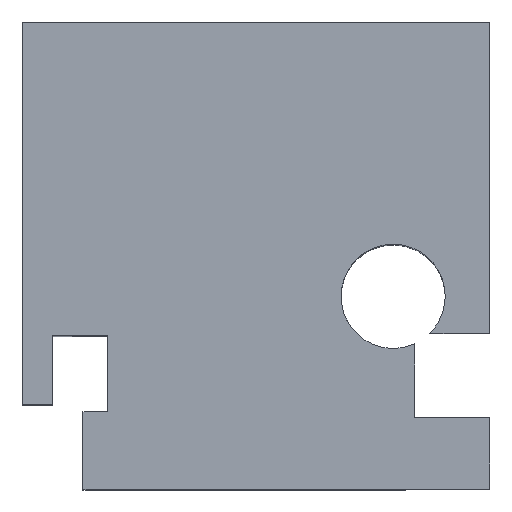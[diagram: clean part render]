
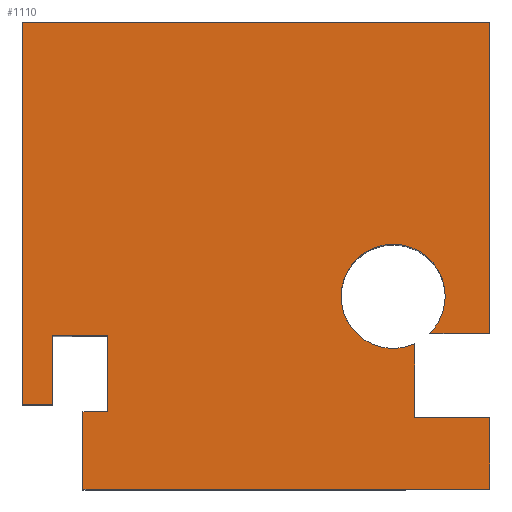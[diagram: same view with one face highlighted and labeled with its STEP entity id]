
A CAD part, top view. The second image highlights one B-rep face of the part: STEP entity #1110.
In plain terms, the highlighted planar face has unit normal (0, 0, 1).
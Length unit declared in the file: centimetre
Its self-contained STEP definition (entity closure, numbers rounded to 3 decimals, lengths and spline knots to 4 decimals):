
#12 = EDGE_CURVE ( 'NONE', #1360, #115, #1386, .T. ) ;
#17 = CARTESIAN_POINT ( 'NONE',  ( 129.6906, 0., 1000. ) ) ;
#54 = CARTESIAN_POINT ( 'NONE',  ( 839.408, 153.0566, 1000. ) ) ;
#73 = VERTEX_POINT ( 'NONE', #54 ) ;
#74 = CARTESIAN_POINT ( 'NONE',  ( 839.408, 333.8363, 1000. ) ) ;
#103 = EDGE_CURVE ( 'NONE', #132, #1500, #870, .T. ) ;
#109 = CARTESIAN_POINT ( 'NONE',  ( 872.0695, 333.8363, 1000. ) ) ;
#114 = EDGE_CURVE ( 'NONE', #737, #1500, #201, .T. ) ;
#115 = VERTEX_POINT ( 'NONE', #315 ) ;
#132 = VERTEX_POINT ( 'NONE', #319 ) ;
#149 = CARTESIAN_POINT ( 'NONE',  ( 0., 0., 1000. ) ) ;
#191 = CIRCLE ( 'NONE', #1572, 111.417 ) ;
#201 = LINE ( 'NONE', #1414, #682 ) ;
#215 = VECTOR ( 'NONE', #783, 100. ) ;
#216 = VECTOR ( 'NONE', #683, 100. ) ;
#219 = LINE ( 'NONE', #74, #302 ) ;
#252 = DIRECTION ( 'NONE',  ( 1., 0., 0. ) ) ;
#259 = CARTESIAN_POINT ( 'NONE',  ( 793.5416, 412.875, 1000. ) ) ;
#265 = VERTEX_POINT ( 'NONE', #109 ) ;
#278 = CARTESIAN_POINT ( 'NONE',  ( 0., 1000., 1000. ) ) ;
#281 = CARTESIAN_POINT ( 'NONE',  ( 182.3076, 328.4887, 1000. ) ) ;
#295 = EDGE_CURVE ( 'NONE', #477, #1003, #342, .T. ) ;
#302 = VECTOR ( 'NONE', #541, 100. ) ;
#303 = DIRECTION ( 'NONE',  ( 0., 1., 0. ) ) ;
#309 = LINE ( 'NONE', #1378, #1198 ) ;
#315 = CARTESIAN_POINT ( 'NONE',  ( 1000., 153.0566, 1000. ) ) ;
#318 = LINE ( 'NONE', #518, #215 ) ;
#319 = CARTESIAN_POINT ( 'NONE',  ( 0., 1000., 1000. ) ) ;
#321 = CARTESIAN_POINT ( 'NONE',  ( 64.2574, 166.1944, 1000. ) ) ;
#324 = CARTESIAN_POINT ( 'NONE',  ( 1000., 333.8363, 1000. ) ) ;
#334 = ORIENTED_EDGE ( 'NONE', *, *, #1120, .T. ) ;
#342 = CIRCLE ( 'NONE', #845, 111.417 ) ;
#353 = ORIENTED_EDGE ( 'NONE', *, *, #295, .T. ) ;
#354 = ORIENTED_EDGE ( 'NONE', *, *, #422, .F. ) ;
#355 = ORIENTED_EDGE ( 'NONE', *, *, #878, .F. ) ;
#370 = ORIENTED_EDGE ( 'NONE', *, *, #832, .T. ) ;
#382 = DIRECTION ( 'NONE',  ( 1., 0., 0. ) ) ;
#389 = CARTESIAN_POINT ( 'NONE',  ( 0., 0., 1000. ) ) ;
#411 = DIRECTION ( 'NONE',  ( -1., 0., 0. ) ) ;
#420 = EDGE_CURVE ( 'NONE', #1049, #1360, #1000, .T. ) ;
#422 = EDGE_CURVE ( 'NONE', #477, #73, #1479, .T. ) ;
#441 = ORIENTED_EDGE ( 'NONE', *, *, #103, .T. ) ;
#447 = CARTESIAN_POINT ( 'NONE',  ( 0., 181.0996, 1000. ) ) ;
#458 = ORIENTED_EDGE ( 'NONE', *, *, #617, .F. ) ;
#468 = DIRECTION ( 'NONE',  ( 0., 0., -1. ) ) ;
#473 = ORIENTED_EDGE ( 'NONE', *, *, #1483, .T. ) ;
#475 = CARTESIAN_POINT ( 'NONE',  ( 64.2574, 181.0996, 1000. ) ) ;
#477 = VERTEX_POINT ( 'NONE', #757 ) ;
#499 = FACE_OUTER_BOUND ( 'NONE', #1232, .T. ) ;
#510 = DIRECTION ( 'NONE',  ( 0., -1., 0. ) ) ;
#518 = CARTESIAN_POINT ( 'NONE',  ( 129.6906, 0., 1000. ) ) ;
#525 = CARTESIAN_POINT ( 'NONE',  ( 682.1246, 412.875, 1000. ) ) ;
#541 = DIRECTION ( 'NONE',  ( -1., 0., 0. ) ) ;
#546 = VERTEX_POINT ( 'NONE', #1056 ) ;
#555 = VECTOR ( 'NONE', #1305, 100. ) ;
#556 = ORIENTED_EDGE ( 'NONE', *, *, #854, .T. ) ;
#585 = DIRECTION ( 'NONE',  ( -1., 0., 0. ) ) ;
#612 = CARTESIAN_POINT ( 'NONE',  ( 793.5416, 412.875, 1000. ) ) ;
#617 = EDGE_CURVE ( 'NONE', #1223, #265, #219, .T. ) ;
#619 = DIRECTION ( 'NONE',  ( -1., 0., 0. ) ) ;
#620 = DIRECTION ( 'NONE',  ( 0., -1., 0. ) ) ;
#628 = DIRECTION ( 'NONE',  ( -1., 0., 0. ) ) ;
#633 = CARTESIAN_POINT ( 'NONE',  ( 1000., 0., 1000. ) ) ;
#642 = VECTOR ( 'NONE', #651, 100. ) ;
#643 = CARTESIAN_POINT ( 'NONE',  ( 1000., 1000., 1000. ) ) ;
#651 = DIRECTION ( 'NONE',  ( 1., 0., 0. ) ) ;
#662 = CARTESIAN_POINT ( 'NONE',  ( 182.3076, 166.1944, 1000. ) ) ;
#682 = VECTOR ( 'NONE', #1535, 100. ) ;
#683 = DIRECTION ( 'NONE',  ( -1., 0., 0. ) ) ;
#701 = VERTEX_POINT ( 'NONE', #933 ) ;
#712 = VECTOR ( 'NONE', #303, 100. ) ;
#719 = VERTEX_POINT ( 'NONE', #1418 ) ;
#737 = VERTEX_POINT ( 'NONE', #475 ) ;
#745 = VECTOR ( 'NONE', #1275, 100. ) ;
#757 = CARTESIAN_POINT ( 'NONE',  ( 839.408, 311.3367, 1000. ) ) ;
#772 = LINE ( 'NONE', #890, #712 ) ;
#781 = ORIENTED_EDGE ( 'NONE', *, *, #114, .F. ) ;
#783 = DIRECTION ( 'NONE',  ( 0., 1., 0. ) ) ;
#794 = AXIS2_PLACEMENT_3D ( 'NONE', #389, #1482, #252 ) ;
#818 = ORIENTED_EDGE ( 'NONE', *, *, #1362, .F. ) ;
#832 = EDGE_CURVE ( 'NONE', #719, #265, #1297, .T. ) ;
#838 = LINE ( 'NONE', #1456, #1407 ) ;
#841 = VERTEX_POINT ( 'NONE', #281 ) ;
#845 = AXIS2_PLACEMENT_3D ( 'NONE', #1212, #1316, #585 ) ;
#854 = EDGE_CURVE ( 'NONE', #546, #132, #309, .T. ) ;
#867 = CARTESIAN_POINT ( 'NONE',  ( 839.408, 153.0566, 1000. ) ) ;
#870 = LINE ( 'NONE', #278, #1165 ) ;
#872 = VECTOR ( 'NONE', #1368, 100. ) ;
#878 = EDGE_CURVE ( 'NONE', #1049, #1164, #318, .T. ) ;
#890 = CARTESIAN_POINT ( 'NONE',  ( 1000., 1000., 1000. ) ) ;
#918 = EDGE_CURVE ( 'NONE', #841, #1506, #1267, .T. ) ;
#920 = CARTESIAN_POINT ( 'NONE',  ( 182.3076, 166.1944, 1000. ) ) ;
#922 = ORIENTED_EDGE ( 'NONE', *, *, #918, .T. ) ;
#933 = CARTESIAN_POINT ( 'NONE',  ( 64.2574, 328.4887, 1000. ) ) ;
#969 = ORIENTED_EDGE ( 'NONE', *, *, #420, .T. ) ;
#1000 = LINE ( 'NONE', #149, #1296 ) ;
#1003 = VERTEX_POINT ( 'NONE', #525 ) ;
#1014 = EDGE_CURVE ( 'NONE', #737, #701, #1176, .T. ) ;
#1049 = VERTEX_POINT ( 'NONE', #17 ) ;
#1056 = CARTESIAN_POINT ( 'NONE',  ( 1000., 1000., 1000. ) ) ;
#1057 = CARTESIAN_POINT ( 'NONE',  ( 64.2574, 166.1944, 1000. ) ) ;
#1059 = ORIENTED_EDGE ( 'NONE', *, *, #1341, .T. ) ;
#1091 = EDGE_CURVE ( 'NONE', #1003, #719, #191, .T. ) ;
#1110 = ADVANCED_FACE ( 'NONE', ( #499 ), #1578, .T. ) ;
#1118 = CARTESIAN_POINT ( 'NONE',  ( 129.6906, 166.1944, 1000. ) ) ;
#1120 = EDGE_CURVE ( 'NONE', #701, #841, #838, .T. ) ;
#1164 = VERTEX_POINT ( 'NONE', #1118 ) ;
#1165 = VECTOR ( 'NONE', #510, 100. ) ;
#1166 = AXIS2_PLACEMENT_3D ( 'NONE', #612, #1485, #628 ) ;
#1176 = LINE ( 'NONE', #1057, #555 ) ;
#1198 = VECTOR ( 'NONE', #411, 100. ) ;
#1212 = CARTESIAN_POINT ( 'NONE',  ( 793.5416, 412.875, 1000. ) ) ;
#1217 = ORIENTED_EDGE ( 'NONE', *, *, #1014, .T. ) ;
#1223 = VERTEX_POINT ( 'NONE', #324 ) ;
#1232 = EDGE_LOOP ( 'NONE', ( #1217, #334, #922, #473, #355, #969, #1520, #818, #354, #353, #1233, #370, #458, #1059, #556, #441, #781 ) ) ;
#1233 = ORIENTED_EDGE ( 'NONE', *, *, #1091, .T. ) ;
#1239 = LINE ( 'NONE', #1490, #642 ) ;
#1267 = LINE ( 'NONE', #662, #745 ) ;
#1275 = DIRECTION ( 'NONE',  ( 0., -1., 0. ) ) ;
#1296 = VECTOR ( 'NONE', #382, 100. ) ;
#1297 = CIRCLE ( 'NONE', #1166, 111.417 ) ;
#1305 = DIRECTION ( 'NONE',  ( 0., 1., 0. ) ) ;
#1316 = DIRECTION ( 'NONE',  ( 0., 0., -1. ) ) ;
#1334 = DIRECTION ( 'NONE',  ( 1., 0., 0. ) ) ;
#1341 = EDGE_CURVE ( 'NONE', #1223, #546, #772, .T. ) ;
#1360 = VERTEX_POINT ( 'NONE', #633 ) ;
#1362 = EDGE_CURVE ( 'NONE', #73, #115, #1239, .T. ) ;
#1368 = DIRECTION ( 'NONE',  ( 0., 1., 0. ) ) ;
#1378 = CARTESIAN_POINT ( 'NONE',  ( 0., 1000., 1000. ) ) ;
#1386 = LINE ( 'NONE', #643, #872 ) ;
#1401 = LINE ( 'NONE', #321, #216 ) ;
#1407 = VECTOR ( 'NONE', #1334, 100. ) ;
#1414 = CARTESIAN_POINT ( 'NONE',  ( 0., 181.0996, 1000. ) ) ;
#1418 = CARTESIAN_POINT ( 'NONE',  ( 904.9586, 412.875, 1000. ) ) ;
#1428 = VECTOR ( 'NONE', #620, 100. ) ;
#1456 = CARTESIAN_POINT ( 'NONE',  ( 64.2574, 328.4887, 1000. ) ) ;
#1479 = LINE ( 'NONE', #867, #1428 ) ;
#1482 = DIRECTION ( 'NONE',  ( 0., 0., 1. ) ) ;
#1483 = EDGE_CURVE ( 'NONE', #1506, #1164, #1401, .T. ) ;
#1485 = DIRECTION ( 'NONE',  ( 0., 0., -1. ) ) ;
#1490 = CARTESIAN_POINT ( 'NONE',  ( 839.408, 153.0566, 1000. ) ) ;
#1500 = VERTEX_POINT ( 'NONE', #447 ) ;
#1506 = VERTEX_POINT ( 'NONE', #920 ) ;
#1520 = ORIENTED_EDGE ( 'NONE', *, *, #12, .T. ) ;
#1535 = DIRECTION ( 'NONE',  ( -1., 0., 0. ) ) ;
#1572 = AXIS2_PLACEMENT_3D ( 'NONE', #259, #468, #619 ) ;
#1578 = PLANE ( 'NONE',  #794 ) ;
